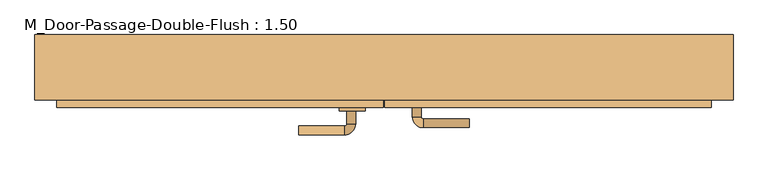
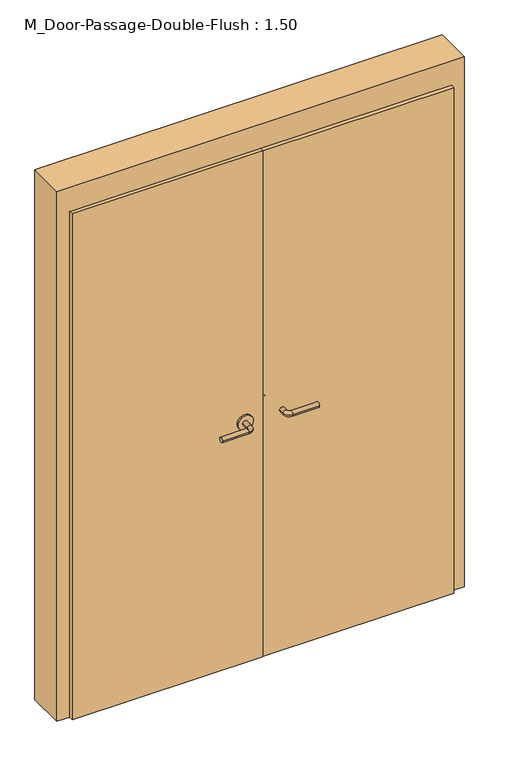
"""IFC4 building model written with IfcOpenShell, lengths in millimetres: door geometry, M_Door-Passage-Double-Flush : 1.50."""

from ifc_helpers import new_model, si_unit, point, frame, frame_2d, origin, origin_with_axes, place, context, project, spatial, polyline, circle_curve, ellipse_curve, trimmed, segment, composite_curve, outline, extrude, faceted_brep, source, transform, mapped, element, save
from ifc_brep_helpers import plane_surface, cylinder_surface, revolved_surface, advanced_brep


def m_door_passage_double_flush_1_50_45166c5d(model_context):
    return source(origin(), model_context, "Body", "SolidModel", [
        advanced_brep(
        [(-65.009375, -13.35, 1016.0), (-85.009375, -13.35, 1016.0), (-85.009375, 16.65, 1016.0), (-65.009375, 16.65, 1016.0), (-90.009375, 21.65, 1016.0), (-90.009375, 41.65, 1016.0), (-195.009375, 41.65, 1016.0), (-195.009375, 21.65, 1016.0)],
        [
            (0, 1, circle_curve(frame((-75.009375, -13.35, 1016.0), z_axis=(0.0, -1.0, 0.0), x_axis=(-1.0, 0.0, 0.0)), 10.0)),
            (1, 0, circle_curve(frame((-75.009375, -13.35, 1016.0), z_axis=(0.0, -1.0, 0.0), x_axis=(-1.0, 0.0, 0.0)), 10.0)),
            (1, 2),
            (2, 3, circle_curve(frame((-75.009375, 16.65, 1016.0), z_axis=(0.0, -1.0, 0.0), x_axis=(-1.0, 0.0, 0.0)), 10.0)),
            (3, 0),
            (3, 2, circle_curve(frame((-75.009375, 16.65, 1016.0), z_axis=(0.0, -1.0, 0.0), x_axis=(-1.0, 0.0, 0.0)), 10.0)),
            (4, 5, circle_curve(frame((-90.009375, 31.65, 1016.0), z_axis=(1.0, 0.0, 0.0), x_axis=(0.0, -1.0, 0.0)), 10.0)),
            (5, 3, circle_curve(frame((-90.009375, 16.65, 1016.0), z_axis=(0.0, 0.0, -1.0), x_axis=(1.0, 0.0, 0.0)), 25.0)),
            (2, 4, circle_curve(frame((-90.009375, 16.65, 1016.0), z_axis=(0.0, 0.0, 1.0), x_axis=(1.0, 0.0, 0.0)), 5.0)),
            (5, 4, circle_curve(frame((-90.009375, 31.65, 1016.0), z_axis=(1.0, 0.0, 0.0), x_axis=(0.0, -1.0, 0.0)), 10.0)),
            (6, 7, circle_curve(frame((-195.009375, 31.65, 1016.0), z_axis=(-1.0, 0.0, 0.0), x_axis=(0.0, -1.0, 0.0)), 10.0)),
            (7, 6, circle_curve(frame((-195.009375, 31.65, 1016.0), z_axis=(-1.0, 0.0, 0.0), x_axis=(0.0, -1.0, 0.0)), 10.0)),
            (4, 7),
            (6, 5),
        ],
        [
            plane_surface(frame((-75.009375, -13.35, 1016.0), z_axis=(0.0, -1.0, 0.0), x_axis=(0.0, 0.0, 1.0))),
            cylinder_surface(frame((-75.009375, -13.35, 1016.0), z_axis=(0.0, -1.0, 0.0), x_axis=(-1.0, 0.0, 0.0)), 10.0),
            revolved_surface(trimmed(ellipse_curve(frame((-75.009375, 16.65, 1016.0), z_axis=(0.0, 1.0, 0.0), x_axis=(-1.0, 0.0, 0.0)), 10.0, 10.0), [point((-65.009375, 16.65, 1016.0))], [point((-85.009375, 16.65, 1016.0))], True, "CARTESIAN"), (-90.009375, 16.65, 1016.0), (0.0, 0.0, -1.0)),
            revolved_surface(trimmed(ellipse_curve(frame((-75.009375, 16.65, 1016.0), z_axis=(0.0, 1.0, 0.0), x_axis=(-1.0, 0.0, 0.0)), 10.0, 10.0), [point((-85.009375, 16.65, 1016.0))], [point((-65.009375, 16.65, 1016.0))], True, "CARTESIAN"), (-90.009375, 16.65, 1016.0), (0.0, 0.0, -1.0)),
            plane_surface(frame((-195.009375, 31.65, 1016.0), z_axis=(-1.0, 0.0, 0.0), x_axis=(0.0, 0.0, 1.0))),
            cylinder_surface(frame((-90.009375, 31.65, 1016.0), z_axis=(1.0, 0.0, 0.0), x_axis=(0.0, -1.0, 0.0)), 10.0),
        ],
        [
            (0, [[1, 2]]),
            (1, [[3, 4, 5, -2]]),
            (1, [[-5, 6, -3, -1]]),
            (2, [[7, 8, -4, 9]]),
            (3, [[10, -9, -6, -8]]),
            (4, [[11, 12]]),
            (5, [[13, -11, 14, -7]]),
            (5, [[-14, -12, -13, -10]]),
        ],
    ),
        extrude(outline(composite_curve([segment(trimmed(circle_curve(frame_2d((1016.0, -72.509375)), 30.0), [point((1016.0, -42.509375))], [point((1016.0, -102.509375))], False, "CARTESIAN"), True, "CONTINUOUS"), segment(trimmed(circle_curve(frame_2d((1016.0, -72.509375)), 30.0), [point((1016.0, -102.509375))], [point((1016.0, -42.509375))], False, "CARTESIAN"), True, "CONTINUOUS")], self_intersect=False)), frame((0.0, -21.35, 0.0), z_axis=(0.0, 1.0, 0.0), x_axis=(0.0, 0.0, 1.0)), (0.0, 0.0, 1.0), 8.0),
        advanced_brep(
        [(-65.009375, -90.95, 1000.0), (-85.009375, -90.95, 1000.0), (-65.009375, -120.95, 1000.0), (-85.009375, -120.95, 1000.0), (-90.009375, -125.95, 1000.0), (-90.009375, -145.95, 1000.0), (-195.009375, -145.95, 1000.0), (-195.009375, -125.95, 1000.0)],
        [
            (0, 1, circle_curve(frame((-75.009375, -90.95, 1000.0), z_axis=(0.0, 1.0, 0.0), x_axis=(-1.0, 0.0, 0.0)), 10.0)),
            (1, 0, circle_curve(frame((-75.009375, -90.95, 1000.0), z_axis=(0.0, 1.0, 0.0), x_axis=(-1.0, 0.0, 0.0)), 10.0)),
            (0, 2),
            (2, 3, circle_curve(frame((-75.009375, -120.95, 1000.0), z_axis=(0.0, 1.0, 0.0), x_axis=(-1.0, 0.0, 0.0)), 10.0)),
            (3, 1),
            (3, 2, circle_curve(frame((-75.009375, -120.95, 1000.0), z_axis=(0.0, 1.0, 0.0), x_axis=(-1.0, 0.0, 0.0)), 10.0)),
            (4, 3, circle_curve(frame((-90.009375, -120.95, 1000.0), z_axis=(0.0, 0.0, 1.0), x_axis=(1.0, 0.0, 0.0)), 5.0)),
            (2, 5, circle_curve(frame((-90.009375, -120.95, 1000.0), z_axis=(0.0, 0.0, -1.0), x_axis=(1.0, 0.0, 0.0)), 25.0)),
            (5, 4, circle_curve(frame((-90.009375, -135.95, 1000.0), z_axis=(1.0, 0.0, 0.0), x_axis=(0.0, 1.0, 0.0)), 10.0)),
            (4, 5, circle_curve(frame((-90.009375, -135.95, 1000.0), z_axis=(1.0, 0.0, 0.0), x_axis=(0.0, 1.0, 0.0)), 10.0)),
            (6, 7, circle_curve(frame((-195.009375, -135.95, 1000.0), z_axis=(-1.0, 0.0, 0.0), x_axis=(0.0, 1.0, 0.0)), 10.0)),
            (7, 6, circle_curve(frame((-195.009375, -135.95, 1000.0), z_axis=(-1.0, 0.0, 0.0), x_axis=(0.0, 1.0, 0.0)), 10.0)),
            (5, 6),
            (7, 4),
        ],
        [
            plane_surface(frame((-75.009375, -90.95, 1000.0), z_axis=(0.0, 1.0, 0.0), x_axis=(0.0, 0.0, 1.0))),
            cylinder_surface(frame((-75.009375, -90.95, 1000.0), z_axis=(0.0, 1.0, 0.0), x_axis=(-1.0, 0.0, 0.0)), 10.0),
            revolved_surface(trimmed(ellipse_curve(frame((-75.009375, -120.95, 1000.0), z_axis=(0.0, 1.0, 0.0), x_axis=(-1.0, 0.0, 0.0)), 10.0, 10.0), [point((-65.009375, -120.95, 1000.0))], [point((-85.009375, -120.95, 1000.0))], True, "CARTESIAN"), (-90.009375, -120.95, 1000.0), (0.0, 0.0, -1.0)),
            revolved_surface(trimmed(ellipse_curve(frame((-75.009375, -120.95, 1000.0), z_axis=(0.0, 1.0, 0.0), x_axis=(-1.0, 0.0, 0.0)), 10.0, 10.0), [point((-85.009375, -120.95, 1000.0))], [point((-65.009375, -120.95, 1000.0))], True, "CARTESIAN"), (-90.009375, -120.95, 1000.0), (0.0, 0.0, -1.0)),
            plane_surface(frame((-195.009375, -135.95, 1000.0), z_axis=(-1.0, 0.0, 0.0), x_axis=(0.0, 0.0, 1.0))),
            cylinder_surface(frame((-90.009375, -135.95, 1000.0), z_axis=(1.0, 0.0, 0.0), x_axis=(0.0, 1.0, 0.0)), 10.0),
        ],
        [
            (0, [[1, 2]]),
            (1, [[-1, 3, 4, 5]]),
            (1, [[-2, -5, 6, -3]]),
            (2, [[7, -4, 8, 9]]),
            (3, [[-8, -6, -7, 10]]),
            (4, [[11, 12]]),
            (5, [[-9, 13, -12, 14]]),
            (5, [[-10, -14, -11, -13]]),
        ],
    ),
        extrude(outline(composite_curve([segment(trimmed(circle_curve(frame_2d((1000.0, -72.509375)), 30.0), [point((1000.0, -42.509375))], [point((1000.0, -102.509375))], False, "CARTESIAN"), True, "CONTINUOUS"), segment(trimmed(circle_curve(frame_2d((1000.0, -72.509375)), 30.0), [point((1000.0, -102.509375))], [point((1000.0, -42.509375))], False, "CARTESIAN"), True, "CONTINUOUS")], self_intersect=False)), frame((0.0, -90.95, 0.0), z_axis=(0.0, 1.0, 0.0), x_axis=(0.0, 0.0, 1.0)), (0.0, 0.0, 1.0), 8.0),
        advanced_brep(
        [(65.009375, -13.35, 1000.0), (85.009375, -13.35, 1000.0), (65.009375, 16.65, 1000.0), (85.009375, 16.65, 1000.0), (90.009375, 21.65, 1000.0), (90.009375, 41.65, 1000.0), (195.009375, 41.65, 1000.0), (195.009375, 21.65, 1000.0)],
        [
            (0, 1, circle_curve(frame((75.009375, -13.35, 1000.0), z_axis=(0.0, -1.0, 0.0), x_axis=(1.0, 0.0, 0.0)), 10.0)),
            (1, 0, circle_curve(frame((75.009375, -13.35, 1000.0), z_axis=(0.0, -1.0, 0.0), x_axis=(1.0, 0.0, 0.0)), 10.0)),
            (0, 2),
            (2, 3, circle_curve(frame((75.009375, 16.65, 1000.0), z_axis=(0.0, -1.0, 0.0), x_axis=(1.0, 0.0, 0.0)), 10.0)),
            (3, 1),
            (3, 2, circle_curve(frame((75.009375, 16.65, 1000.0), z_axis=(0.0, -1.0, 0.0), x_axis=(1.0, 0.0, 0.0)), 10.0)),
            (4, 3, circle_curve(frame((90.009375, 16.65, 1000.0), z_axis=(0.0, 0.0, 1.0), x_axis=(-1.0, 0.0, 0.0)), 5.0)),
            (2, 5, circle_curve(frame((90.009375, 16.65, 1000.0), z_axis=(0.0, 0.0, -1.0), x_axis=(-1.0, 0.0, 0.0)), 25.0)),
            (5, 4, circle_curve(frame((90.009375, 31.65, 1000.0), z_axis=(-1.0, 0.0, 0.0), x_axis=(0.0, -1.0, 0.0)), 10.0)),
            (4, 5, circle_curve(frame((90.009375, 31.65, 1000.0), z_axis=(-1.0, 0.0, 0.0), x_axis=(0.0, -1.0, 0.0)), 10.0)),
            (6, 7, circle_curve(frame((195.009375, 31.65, 1000.0), z_axis=(1.0, 0.0, 0.0), x_axis=(0.0, -1.0, 0.0)), 10.0)),
            (7, 6, circle_curve(frame((195.009375, 31.65, 1000.0), z_axis=(1.0, 0.0, 0.0), x_axis=(0.0, -1.0, 0.0)), 10.0)),
            (5, 6),
            (7, 4),
        ],
        [
            plane_surface(frame((75.009375, -13.35, 1000.0), z_axis=(0.0, -1.0, 0.0), x_axis=(0.0, 0.0, 1.0))),
            cylinder_surface(frame((75.009375, -13.35, 1000.0), z_axis=(0.0, -1.0, 0.0), x_axis=(1.0, 0.0, 0.0)), 10.0),
            revolved_surface(trimmed(ellipse_curve(frame((75.009375, 16.65, 1000.0), z_axis=(0.0, -1.0, 0.0), x_axis=(1.0, 0.0, 0.0)), 10.0, 10.0), [point((65.009375, 16.65, 1000.0))], [point((85.009375, 16.65, 1000.0))], True, "CARTESIAN"), (90.009375, 16.65, 1000.0), (0.0, 0.0, -1.0)),
            revolved_surface(trimmed(ellipse_curve(frame((75.009375, 16.65, 1000.0), z_axis=(0.0, -1.0, 0.0), x_axis=(1.0, 0.0, 0.0)), 10.0, 10.0), [point((85.009375, 16.65, 1000.0))], [point((65.009375, 16.65, 1000.0))], True, "CARTESIAN"), (90.009375, 16.65, 1000.0), (0.0, 0.0, -1.0)),
            plane_surface(frame((195.009375, 31.65, 1000.0), z_axis=(1.0, 0.0, 0.0), x_axis=(0.0, 0.0, 1.0))),
            cylinder_surface(frame((90.009375, 31.65, 1000.0), z_axis=(-1.0, 0.0, 0.0), x_axis=(0.0, -1.0, 0.0)), 10.0),
        ],
        [
            (0, [[1, 2]]),
            (1, [[-1, 3, 4, 5]]),
            (1, [[-2, -5, 6, -3]]),
            (2, [[7, -4, 8, 9]]),
            (3, [[-8, -6, -7, 10]]),
            (4, [[11, 12]]),
            (5, [[-9, 13, -12, 14]]),
            (5, [[-10, -14, -11, -13]]),
        ],
    ),
        extrude(outline(composite_curve([segment(trimmed(circle_curve(frame_2d((1000.0, 72.509375)), 30.0), [point((1000.0, 42.509375))], [point((1000.0, 102.509375))], False, "CARTESIAN"), True, "CONTINUOUS"), segment(trimmed(circle_curve(frame_2d((1000.0, 72.509375)), 30.0), [point((1000.0, 102.509375))], [point((1000.0, 42.509375))], False, "CARTESIAN"), True, "CONTINUOUS")], self_intersect=False)), frame((0.0, -21.35, 0.0), z_axis=(0.0, 1.0, 0.0), x_axis=(0.0, 0.0, 1.0)), (0.0, 0.0, 1.0), 8.0),
        advanced_brep(
        [(65.009375, -74.35, 1000.0), (85.009375, -74.35, 1000.0), (85.009375, -104.35, 1000.0), (65.009375, -104.35, 1000.0), (90.009375, -109.35, 1000.0), (90.009375, -129.35, 1000.0), (195.009375, -129.35, 1000.0), (195.009375, -109.35, 1000.0)],
        [
            (0, 1, circle_curve(frame((75.009375, -74.35, 1000.0), z_axis=(0.0, 1.0, 0.0), x_axis=(1.0, 0.0, 0.0)), 10.0)),
            (1, 0, circle_curve(frame((75.009375, -74.35, 1000.0), z_axis=(0.0, 1.0, 0.0), x_axis=(1.0, 0.0, 0.0)), 10.0)),
            (1, 2),
            (2, 3, circle_curve(frame((75.009375, -104.35, 1000.0), z_axis=(0.0, 1.0, 0.0), x_axis=(1.0, 0.0, 0.0)), 10.0)),
            (3, 0),
            (3, 2, circle_curve(frame((75.009375, -104.35, 1000.0), z_axis=(0.0, 1.0, 0.0), x_axis=(1.0, 0.0, 0.0)), 10.0)),
            (4, 5, circle_curve(frame((90.009375, -119.35, 1000.0), z_axis=(-1.0, 0.0, 0.0), x_axis=(0.0, 1.0, 0.0)), 10.0)),
            (5, 3, circle_curve(frame((90.009375, -104.35, 1000.0), z_axis=(0.0, 0.0, -1.0), x_axis=(-1.0, 0.0, 0.0)), 25.0)),
            (2, 4, circle_curve(frame((90.009375, -104.35, 1000.0), z_axis=(0.0, 0.0, 1.0), x_axis=(-1.0, 0.0, 0.0)), 5.0)),
            (5, 4, circle_curve(frame((90.009375, -119.35, 1000.0), z_axis=(-1.0, 0.0, 0.0), x_axis=(0.0, 1.0, 0.0)), 10.0)),
            (6, 7, circle_curve(frame((195.009375, -119.35, 1000.0), z_axis=(1.0, 0.0, 0.0), x_axis=(0.0, 1.0, 0.0)), 10.0)),
            (7, 6, circle_curve(frame((195.009375, -119.35, 1000.0), z_axis=(1.0, 0.0, 0.0), x_axis=(0.0, 1.0, 0.0)), 10.0)),
            (4, 7),
            (6, 5),
        ],
        [
            plane_surface(frame((75.009375, -74.35, 1000.0), z_axis=(0.0, 1.0, 0.0), x_axis=(0.0, 0.0, 1.0))),
            cylinder_surface(frame((75.009375, -74.35, 1000.0), z_axis=(0.0, 1.0, 0.0), x_axis=(1.0, 0.0, 0.0)), 10.0),
            revolved_surface(trimmed(ellipse_curve(frame((75.009375, -104.35, 1000.0), z_axis=(0.0, -1.0, 0.0), x_axis=(1.0, 0.0, 0.0)), 10.0, 10.0), [point((65.009375, -104.35, 1000.0))], [point((85.009375, -104.35, 1000.0))], True, "CARTESIAN"), (90.009375, -104.35, 1000.0), (0.0, 0.0, -1.0)),
            revolved_surface(trimmed(ellipse_curve(frame((75.009375, -104.35, 1000.0), z_axis=(0.0, -1.0, 0.0), x_axis=(1.0, 0.0, 0.0)), 10.0, 10.0), [point((85.009375, -104.35, 1000.0))], [point((65.009375, -104.35, 1000.0))], True, "CARTESIAN"), (90.009375, -104.35, 1000.0), (0.0, 0.0, -1.0)),
            plane_surface(frame((195.009375, -119.35, 1000.0), z_axis=(1.0, 0.0, 0.0), x_axis=(0.0, 0.0, 1.0))),
            cylinder_surface(frame((90.009375, -119.35, 1000.0), z_axis=(-1.0, 0.0, 0.0), x_axis=(0.0, 1.0, 0.0)), 10.0),
        ],
        [
            (0, [[1, 2]]),
            (1, [[3, 4, 5, -2]]),
            (1, [[-5, 6, -3, -1]]),
            (2, [[7, 8, -4, 9]]),
            (3, [[10, -9, -6, -8]]),
            (4, [[11, 12]]),
            (5, [[13, -11, 14, -7]]),
            (5, [[-14, -12, -13, -10]]),
        ],
    ),
        extrude(outline(composite_curve([segment(trimmed(circle_curve(frame_2d((1000.0, 72.509375)), 30.0), [point((1000.0, 42.509375))], [point((1000.0, 102.509375))], False, "CARTESIAN"), True, "CONTINUOUS"), segment(trimmed(circle_curve(frame_2d((1000.0, 72.509375)), 30.0), [point((1000.0, 102.509375))], [point((1000.0, 42.509375))], False, "CARTESIAN"), True, "CONTINUOUS")], self_intersect=False)), frame((0.0, -74.35, 0.0), z_axis=(0.0, 1.0, 0.0), x_axis=(0.0, 0.0, 1.0)), (0.0, 0.0, 1.0), 8.0),
        faceted_brep([(750.0, -16.5875, 0.0), (734.125, -16.5875, 0.0), (734.125, 34.4375, 0.0), (750.0, 34.4375, 0.0), (750.0, 83.65, 0.0), (800.0, 83.65, 0.0), (800.0, -66.35, 0.0), (750.0, -66.35, 0.0), (750.0, -66.35, 2100.0), (750.0, -16.5875, 2100.0), (800.0, -66.35, 2200.0), (-800.0, -66.35, 2200.0), (-800.0, -66.35, 0.0), (-750.0, -66.35, 0.0), (-750.0, -66.35, 2100.0), (800.0, 83.65, 2200.0), (750.0, 83.65, 2100.0), (-750.0, 83.65, 2100.0), (-750.0, 83.65, 0.0), (-800.0, 83.65, 0.0), (-800.0, 83.65, 2200.0), (750.0, 34.4375, 2100.0), (734.125, 34.4375, 2084.125), (-734.125, 34.4375, 2084.125), (-734.125, 34.4375, 0.0), (-750.0, 34.4375, 0.0), (-750.0, 34.4375, 2100.0), (734.125, -16.5875, 2084.125), (-750.0, -16.5875, 2100.0), (-750.0, -16.5875, 0.0), (-734.125, -16.5875, 0.0), (-734.125, -16.5875, 2084.125)], [[[0, 1, 2, 3, 4, 5, 6, 7]], [[7, 8, 9, 0]], [[6, 10, 11, 12, 13, 14, 8, 7]], [[5, 15, 10, 6]], [[4, 16, 17, 18, 19, 20, 15, 5]], [[3, 21, 16, 4]], [[2, 22, 23, 24, 25, 26, 21, 3]], [[1, 27, 22, 2]], [[0, 9, 28, 29, 30, 31, 27, 1]], [[8, 14, 28, 9]], [[16, 21, 26, 17]], [[22, 27, 31, 23]], [[12, 19, 18, 25, 24, 30, 29, 13]], [[13, 29, 28, 14]], [[11, 20, 19, 12]], [[17, 26, 25, 18]], [[23, 31, 30, 24]], [[15, 20, 11, 10]]]),
        extrude(outline(polyline([(750.0, -21.35), (750.0, -82.95), (1.5875, -82.95), (1.5875, -21.35), (750.0, -21.35)])), origin_with_axes(), (0.0, 0.0, 1.0), 2100.0),
        extrude(outline(polyline([(-1.5875, -21.35), (-1.5875, -82.95), (-750.0, -82.95), (-750.0, -21.35), (-1.5875, -21.35)])), origin_with_axes(), (0.0, 0.0, 1.0), 2100.0),
    ])


if __name__ == "__main__":
    model = new_model("IFC4")
    model_context = context("Model", 3, world=origin())
    ifc_project = project(units=[si_unit("LENGTHUNIT", "METRE", prefix="MILLI")], contexts=[model_context])
    site = spatial("IfcSite", under=ifc_project)
    building = spatial("IfcBuilding", under=site)
    placement = place(None, origin())
    m_door_passage_double_flush_1_50_shape = m_door_passage_double_flush_1_50_45166c5d(model_context)
    element("IfcDoor", 1, ObjectType="M_Door-Passage-Double-Flush : 1.50", at=placement, inside=building, context=model_context, shape_type="MappedRepresentation", body=[
        mapped(m_door_passage_double_flush_1_50_shape, transform((0.0, 0.0, 0.0), x_axis=(1.0, 0.0, 0.0), y_axis=(0.0, 1.0, 0.0), z_axis=(0.0, 0.0, 1.0))),
    ])
    save(model, "model.ifc")
